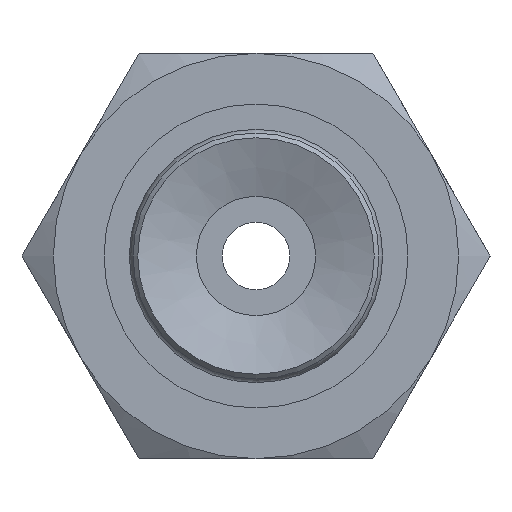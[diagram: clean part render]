
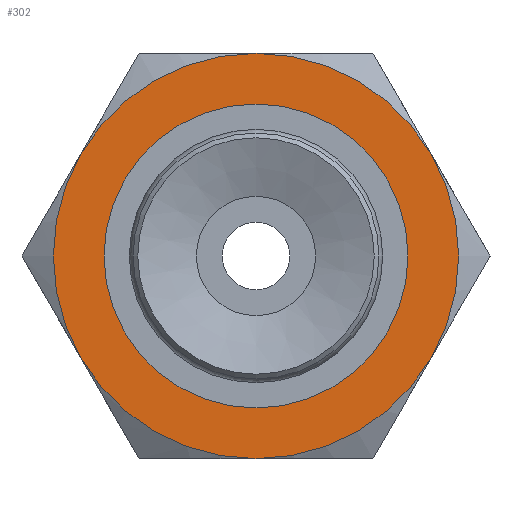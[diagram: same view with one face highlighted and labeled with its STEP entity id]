
A CAD part, front view. The second image highlights one B-rep face of the part: STEP entity #302.
In plain terms, the highlighted planar face has unit normal (0, -1, 0) as drawn and (-1, 0, 0) by its records, which use the part's own axes.
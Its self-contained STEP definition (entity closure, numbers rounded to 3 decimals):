
#302=ADVANCED_FACE('',(#398,#399),#400,.F.);
#398=FACE_BOUND('',#591,.T.);
#399=FACE_OUTER_BOUND('',#592,.T.);
#400=PLANE('',#593);
#591=EDGE_LOOP('',(#879));
#592=EDGE_LOOP('',(#880,#881,#882,#883,#884,#885));
#593=AXIS2_PLACEMENT_3D('',#886,#887,#888);
#879=ORIENTED_EDGE('',*,*,#1178,.T.);
#880=ORIENTED_EDGE('',*,*,#1141,.F.);
#881=ORIENTED_EDGE('',*,*,#1142,.F.);
#882=ORIENTED_EDGE('',*,*,#1145,.F.);
#883=ORIENTED_EDGE('',*,*,#1177,.F.);
#884=ORIENTED_EDGE('',*,*,#1159,.F.);
#885=ORIENTED_EDGE('',*,*,#1160,.F.);
#886=CARTESIAN_POINT('',(0.,0.0,0.0));
#887=DIRECTION('',(1.0,0.0,0.0));
#888=DIRECTION('',(0.0,1.0,0.0));
#1141=EDGE_CURVE('',#1239,#1236,#1241,.T.);
#1142=EDGE_CURVE('',#1242,#1239,#1243,.T.);
#1145=EDGE_CURVE('',#1247,#1242,#1248,.T.);
#1159=EDGE_CURVE('',#1261,#1269,#1271,.T.);
#1160=EDGE_CURVE('',#1236,#1261,#1272,.T.);
#1177=EDGE_CURVE('',#1269,#1247,#1296,.T.);
#1178=EDGE_CURVE('',#1297,#1297,#1298,.T.);
#1236=VERTEX_POINT('',#1426);
#1239=VERTEX_POINT('',#1449);
#1241=CIRCLE('',#1461,6.0);
#1242=VERTEX_POINT('',#1462);
#1243=CIRCLE('',#1463,6.0);
#1247=VERTEX_POINT('',#1487);
#1248=CIRCLE('',#1488,6.0);
#1261=VERTEX_POINT('',#1552);
#1269=VERTEX_POINT('',#1600);
#1271=CIRCLE('',#1612,6.0);
#1272=CIRCLE('',#1613,6.0);
#1296=CIRCLE('',#1710,6.0);
#1297=VERTEX_POINT('',#1711);
#1298=CIRCLE('',#1712,4.5);
#1426=CARTESIAN_POINT('',(0.,5.196,3.0));
#1449=CARTESIAN_POINT('',(0.,5.196,-3.0));
#1461=AXIS2_PLACEMENT_3D('',#1811,#1812,#1813);
#1462=CARTESIAN_POINT('',(0.,0.0,-6.0));
#1463=AXIS2_PLACEMENT_3D('',#1814,#1815,#1816);
#1487=CARTESIAN_POINT('',(0.,-5.196,-3.0));
#1488=AXIS2_PLACEMENT_3D('',#1817,#1818,#1819);
#1552=CARTESIAN_POINT('',(0.,0.0,6.0));
#1600=CARTESIAN_POINT('',(0.,-5.196,3.0));
#1612=AXIS2_PLACEMENT_3D('',#1827,#1828,#1829);
#1613=AXIS2_PLACEMENT_3D('',#1830,#1831,#1832);
#1710=AXIS2_PLACEMENT_3D('',#1854,#1855,#1856);
#1711=CARTESIAN_POINT('',(0.,0.0,-4.5));
#1712=AXIS2_PLACEMENT_3D('',#1857,#1858,#1859);
#1811=CARTESIAN_POINT('',(0.,0.0,0.0));
#1812=DIRECTION('',(1.0,0.0,0.0));
#1813=DIRECTION('',(0.0,0.0,-1.0));
#1814=CARTESIAN_POINT('',(0.,0.0,0.0));
#1815=DIRECTION('',(1.0,0.0,0.0));
#1816=DIRECTION('',(0.0,0.0,-1.0));
#1817=CARTESIAN_POINT('',(0.,0.0,0.0));
#1818=DIRECTION('',(1.0,0.0,0.0));
#1819=DIRECTION('',(0.0,0.0,-1.0));
#1827=CARTESIAN_POINT('',(0.,0.0,0.0));
#1828=DIRECTION('',(1.0,0.0,0.0));
#1829=DIRECTION('',(0.0,0.0,-1.0));
#1830=CARTESIAN_POINT('',(0.,0.0,0.0));
#1831=DIRECTION('',(1.0,0.0,0.0));
#1832=DIRECTION('',(0.0,0.0,-1.0));
#1854=CARTESIAN_POINT('',(0.,0.0,0.0));
#1855=DIRECTION('',(1.0,0.0,0.0));
#1856=DIRECTION('',(0.0,0.0,-1.0));
#1857=CARTESIAN_POINT('',(0.,0.0,0.0));
#1858=DIRECTION('',(1.0,0.0,0.0));
#1859=DIRECTION('',(0.0,0.0,-1.0));
